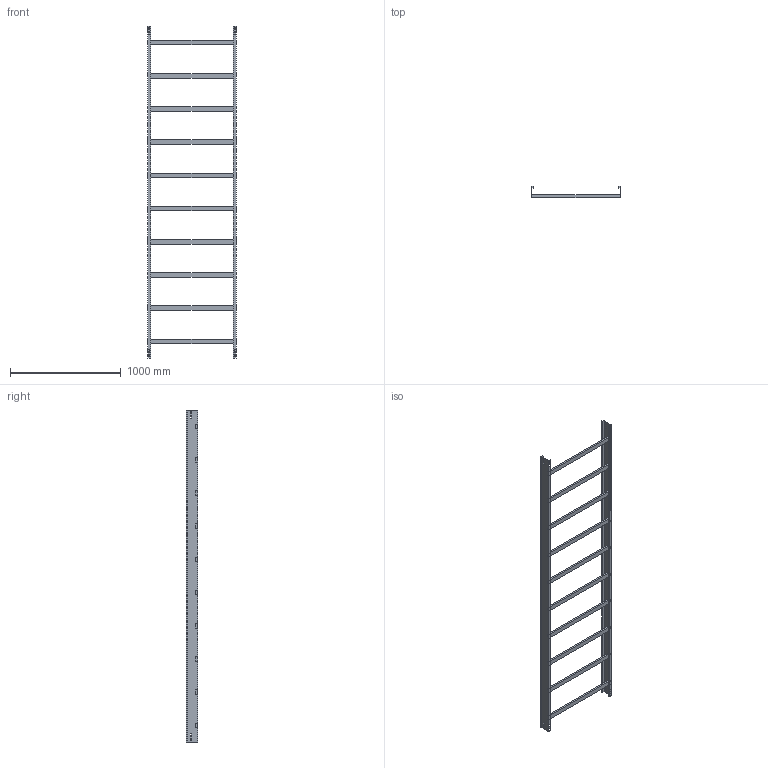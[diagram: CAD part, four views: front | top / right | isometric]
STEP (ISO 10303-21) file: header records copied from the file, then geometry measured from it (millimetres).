
FILE_DESCRIPTION (( 'STEP AP214' ), '1' );
FILE_NAME ('01B3D800.step', '2025-02-21T15:59:58', ( '' ), ( '' ), 'SwSTEP 2.0', 'SolidWorks 2023', '' );
FILE_SCHEMA (( 'AUTOMOTIVE_DESIGN' ));
Length unit declared in the file: millimetre
Products named in the file (3): TRAVERSINO_800; 01B3D800; LONGH.H100
Assembly tree (12 placements, depth 2):
  01B3D800
    LONGH.H100  x2
    TRAVERSINO_800  x10
Bounding box: 800 x 100 x 3000 mm (x, y, z)
Volume: 9094672 mm3; surface area: 2694056 mm2
Topology: 12 solids, 12 shells, 144 faces, 360 edges, 240 vertices
Faces by surface type: plane 144
Entity records: 1696 total; most frequent: CARTESIAN_POINT 283, ORIENTED_EDGE 264, DIRECTION 258, EDGE_CURVE 132, LINE 132, VECTOR 132, VERTEX_POINT 88, EDGE_LOOP 64
